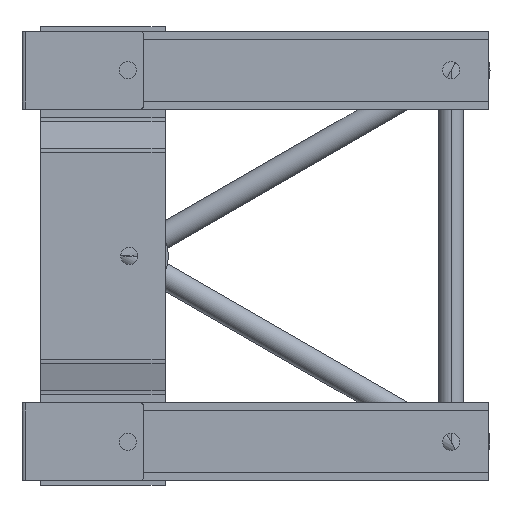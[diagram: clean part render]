
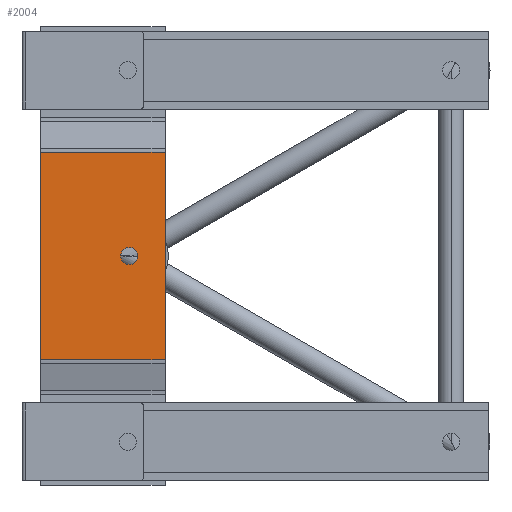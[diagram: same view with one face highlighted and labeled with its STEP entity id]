
A CAD part, left-side view. The second image highlights one B-rep face of the part: STEP entity #2004.
In plain terms, the highlighted planar face has unit normal (-1, 0, 0).
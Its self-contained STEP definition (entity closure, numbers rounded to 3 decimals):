
#1881 = VERTEX_POINT ( 'NONE', #6319 ) ;
#1929 = EDGE_CURVE ( 'NONE', #1988, #1881, #6478, .T. ) ;
#1935 = ORIENTED_EDGE ( 'NONE', *, *, #1929, .T. ) ;
#1949 = ORIENTED_EDGE ( 'NONE', *, *, #1982, .T. ) ;
#1953 = ORIENTED_EDGE ( 'NONE', *, *, #12140, .T. ) ;
#1963 = VERTEX_POINT ( 'NONE', #6502 ) ;
#1968 = EDGE_LOOP ( 'NONE', ( #1949, #1953 ) ) ;
#1972 = ORIENTED_EDGE ( 'NONE', *, *, #1985, .F. ) ;
#1982 = EDGE_CURVE ( 'NONE', #12407, #12126, #6517, .T. ) ;
#1985 = EDGE_CURVE ( 'NONE', #1988, #1963, #6513, .T. ) ;
#1986 = EDGE_LOOP ( 'NONE', ( #1972, #1935, #2065, #2058 ) ) ;
#1988 = VERTEX_POINT ( 'NONE', #6509 ) ;
#2004 = ADVANCED_FACE ( 'NONE', ( #6604, #6603 ), #6602, .T. ) ;
#2058 = ORIENTED_EDGE ( 'NONE', *, *, #2066, .T. ) ;
#2062 = EDGE_CURVE ( 'NONE', #1881, #2067, #6868, .T. ) ;
#2065 = ORIENTED_EDGE ( 'NONE', *, *, #2062, .T. ) ;
#2066 = EDGE_CURVE ( 'NONE', #2067, #1963, #6864, .T. ) ;
#2067 = VERTEX_POINT ( 'NONE', #6860 ) ;
#6319 = CARTESIAN_POINT ( 'NONE',  ( 320., -14., 77.635 ) ) ;
#6475 = DIRECTION ( 'NONE',  ( 0., -1., 0. ) ) ;
#6476 = VECTOR ( 'NONE', #6475, 1000. ) ;
#6477 = CARTESIAN_POINT ( 'NONE',  ( 320., -14., 77.635 ) ) ;
#6478 = LINE ( 'NONE', #6477, #6476 ) ;
#6486 = CARTESIAN_POINT ( 'NONE',  ( 320., 9., 144.5 ) ) ;
#6502 = CARTESIAN_POINT ( 'NONE',  ( 320., 66., 211.365 ) ) ;
#6509 = CARTESIAN_POINT ( 'NONE',  ( 320., 66., 77.635 ) ) ;
#6510 = DIRECTION ( 'NONE',  ( 0., 0., 1. ) ) ;
#6511 = VECTOR ( 'NONE', #6510, 1000. ) ;
#6512 = CARTESIAN_POINT ( 'NONE',  ( 320., 66., 76.365 ) ) ;
#6513 = LINE ( 'NONE', #6512, #6511 ) ;
#6514 = DIRECTION ( 'NONE',  ( 0., 0., -1. ) ) ;
#6515 = DIRECTION ( 'NONE',  ( 1., 0., 0. ) ) ;
#6516 = AXIS2_PLACEMENT_3D ( 'NONE', #6486, #6515, #6514 ) ;
#6517 = CIRCLE ( 'NONE', #6516, 5.5 ) ;
#6598 = DIRECTION ( 'NONE',  ( 0., 0., 1. ) ) ;
#6599 = DIRECTION ( 'NONE',  ( -1., 0., 0. ) ) ;
#6600 = CARTESIAN_POINT ( 'NONE',  ( 320., -14., 76.365 ) ) ;
#6601 = AXIS2_PLACEMENT_3D ( 'NONE', #6600, #6599, #6598 ) ;
#6602 = PLANE ( 'NONE',  #6601 ) ;
#6603 = FACE_OUTER_BOUND ( 'NONE', #1986, .T. ) ;
#6604 = FACE_BOUND ( 'NONE', #1968, .T. ) ;
#6860 = CARTESIAN_POINT ( 'NONE',  ( 320., -14., 211.365 ) ) ;
#6861 = DIRECTION ( 'NONE',  ( 0., 1., 0. ) ) ;
#6862 = VECTOR ( 'NONE', #6861, 1000. ) ;
#6863 = CARTESIAN_POINT ( 'NONE',  ( 320., -14., 211.365 ) ) ;
#6864 = LINE ( 'NONE', #6863, #6862 ) ;
#6865 = DIRECTION ( 'NONE',  ( 0., 0., 1. ) ) ;
#6866 = VECTOR ( 'NONE', #6865, 1000. ) ;
#6867 = CARTESIAN_POINT ( 'NONE',  ( 320., -14., 76.365 ) ) ;
#6868 = LINE ( 'NONE', #6867, #6866 ) ;
#9975 = DIRECTION ( 'NONE',  ( 0., 0., -1. ) ) ;
#9976 = DIRECTION ( 'NONE',  ( 1., 0., 0. ) ) ;
#9977 = CARTESIAN_POINT ( 'NONE',  ( 320., 9., 144.5 ) ) ;
#9978 = AXIS2_PLACEMENT_3D ( 'NONE', #9977, #9976, #9975 ) ;
#9979 = CIRCLE ( 'NONE', #9978, 5.5 ) ;
#9988 = CARTESIAN_POINT ( 'NONE',  ( 320., 9., 150. ) ) ;
#11422 = CARTESIAN_POINT ( 'NONE',  ( 320., 9., 139. ) ) ;
#12126 = VERTEX_POINT ( 'NONE', #9988 ) ;
#12140 = EDGE_CURVE ( 'NONE', #12126, #12407, #9979, .T. ) ;
#12407 = VERTEX_POINT ( 'NONE', #11422 ) ;
